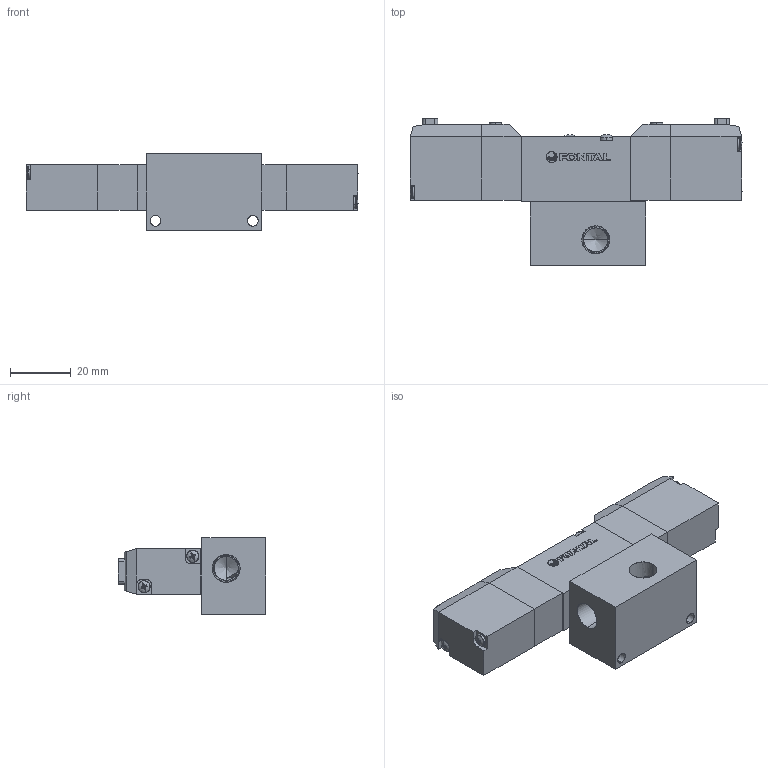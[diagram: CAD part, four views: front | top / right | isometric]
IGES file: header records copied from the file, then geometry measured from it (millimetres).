
Start section: SolidWorks IGES file using analytic representation for surfaces
Global section: file name: D:\Custom\3D繪製\PC\PC5\PCD345#-01-#-U-#.IGS,1; native system: 5HSolidWorks 2014; preprocessor: SolidWorks 2014; author: Chieh_Lu; date: 150729.232105; units: millimetre
Bounding box: 109.14 x 48.5 x 25 mm (x, y, z)
Surface area: 20611 mm2 (no closed solid volume)
Topology: 0 solids, 0 shells, 533 faces, 5218 edges, 5196 vertices
Faces by surface type: bspline 326, revolution 207
